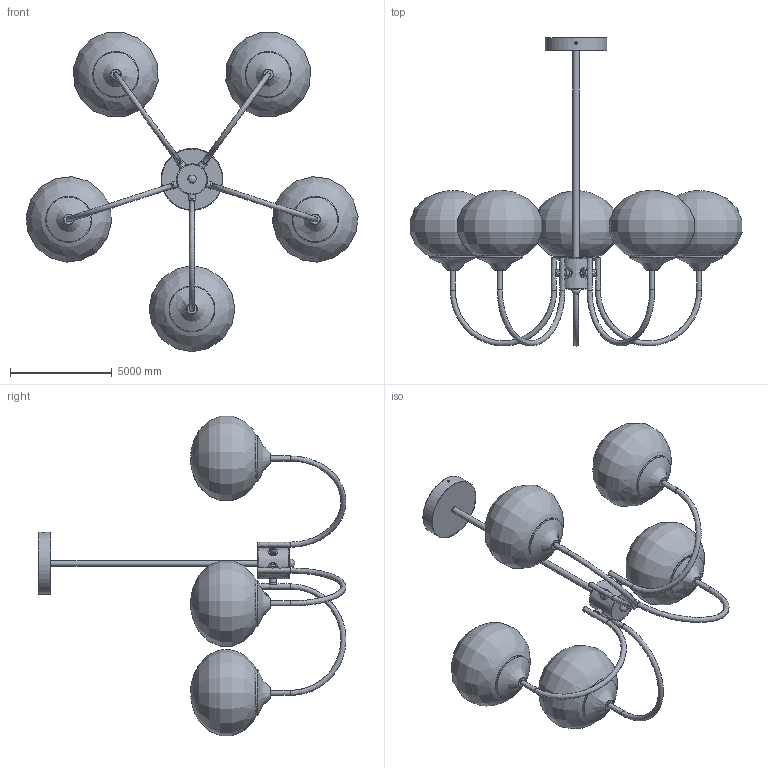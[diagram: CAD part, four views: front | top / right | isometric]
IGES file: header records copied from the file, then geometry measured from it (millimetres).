
Global section: file name: Marshmallow Glass Chandelier-5heads; native system: AutoCAD 2022 - 简体中文 (Simplified Chinese),62HAuto; preprocessor: desk Translation Framework DWG producer (atf_dwg_producer); organization: unknown; date: 20260113.102707; units: inch
Bounding box: 16324.94 x 15143.82 x 15714 mm (x, y, z)
Volume: 18558551510.8 mm3; surface area: 746359493.2 mm2
Topology: 52 solids, 52 shells, 444 faces, 1072 edges, 754 vertices
Faces by surface type: bspline 444
